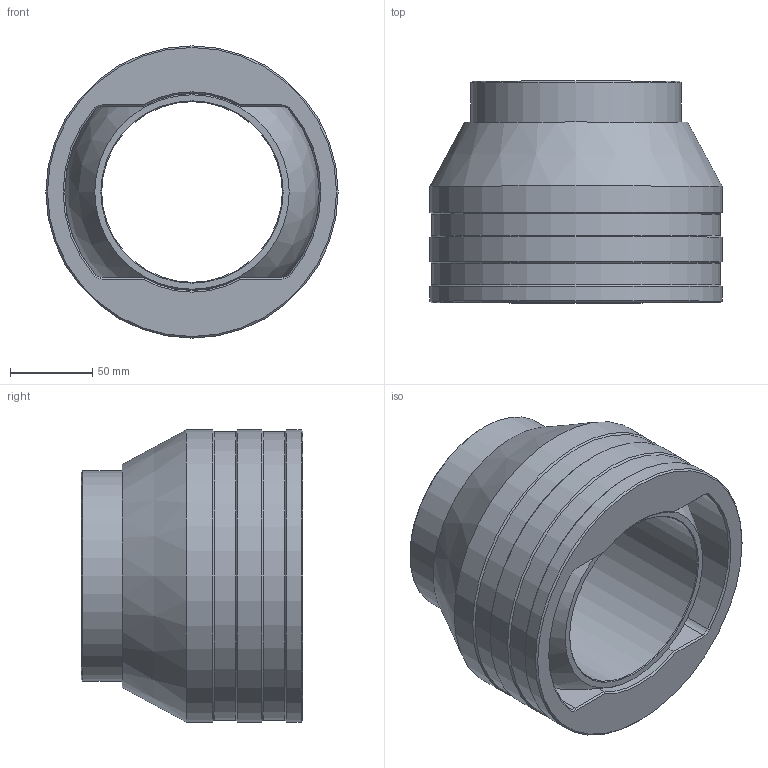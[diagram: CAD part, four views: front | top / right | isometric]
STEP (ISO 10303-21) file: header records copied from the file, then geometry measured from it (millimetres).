
FILE_DESCRIPTION(('STEP AP214'),'1');
FILE_NAME('C:/Projets/Serie 10.xx.xx/10.11.11.step','2011-11-10T15:36:51',(' '),(' '),'Spatial InterOp 3D',' ',' ');
FILE_SCHEMA(('automotive_design'));
Length unit declared in the file: metre
Products named in the file (3): boitier 11; rotule 11; 1
Bounding box: 178 x 135 x 178 mm (x, y, z)
Volume: 1399288.9 mm3; surface area: 232967.2 mm2
Topology: 2 solids, 2 shells, 51 faces, 1603 edges, 3052 vertices
Faces by surface type: cone 18, cylinder 17, plane 14, sphere 2
Full cylindrical faces by diameter (mm): 110 x1, 118 x1, 120 x1, 128 x1, 176 x2, 178 x3
Entity records: 19697 total; most frequent: CARTESIAN_POINT 1753, DIRECTION 1740, STYLED_ITEM 1546, PRESENTATION_STYLE_ASSIGNMENT 1546, COLOUR_RGB 1546, LINE 1514, VECTOR 1514, TRIMMED_CURVE 1495
